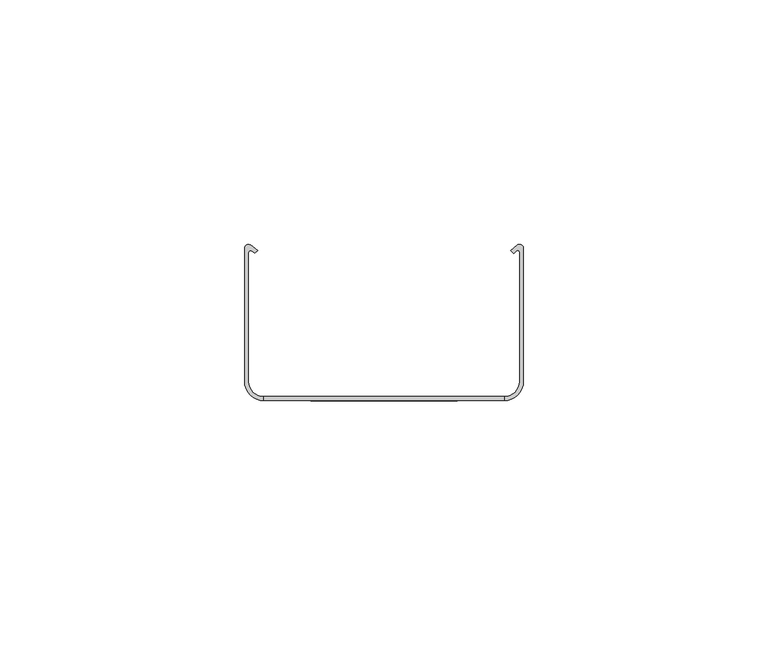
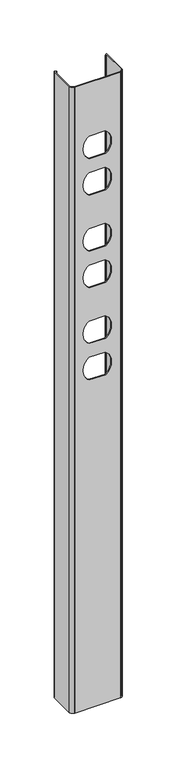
"""IFC4 building model written with IfcOpenShell, lengths in millimetres: proxy geometry, Accessory-Wiremold-Add-on_Power_Cover : 25DTP-B."""

from ifc_helpers import new_model, si_unit, point, frame, frame_2d, origin, origin_with_axes, place, context, project, spatial, polyline, circle_curve, trimmed, segment, composite_curve, outline, extrude, source, transform, mapped, element, save


def electrical_fixtures_08506310(model_context):
    return source(origin(), model_context, "Body", "SweptSolid", [
        extrude(outline(polyline([(711.0, 24.575), (711.0, -24.575), (0.0, -24.575), (0.0, 24.575), (711.0, 24.575)]), holes=[composite_curve([segment(polyline([(439.7477261, -8.6008568), (439.7477261, 8.6011223)]), True, "CONTINUOUS"), segment(trimmed(circle_curve(frame_2d((428.0099083, 0.9958893)), 13.9862766), [point((439.7477261, 8.6011223))], [point((428.0099083, 14.982166))], True, "CARTESIAN"), True, "CONTINUOUS"), segment(polyline([(428.0099083, 14.982166), (425.9224052, 14.982166)]), True, "CONTINUOUS"), segment(trimmed(circle_curve(frame_2d((425.9224052, 0.982166)), 14.0), [point((425.9224052, 14.982166))], [point((414.2625, 8.7311408))], True, "CARTESIAN"), True, "CONTINUOUS"), segment(polyline([(414.2625, 8.7311408), (414.2625, -8.7313592)]), True, "CONTINUOUS"), segment(trimmed(circle_curve(frame_2d((425.9603539, -0.9909304)), 14.0269036), [point((414.2625, -8.7313592))], [point((425.9603539, -15.017834))], True, "CARTESIAN"), True, "CONTINUOUS"), segment(polyline([(425.9603539, -15.017834), (427.9677071, -15.017834)]), True, "CONTINUOUS"), segment(trimmed(circle_curve(frame_2d((427.9677071, -0.9967117)), 14.0211223), [point((427.9677071, -15.017834))], [point((439.7477261, -8.6008568))], True, "CARTESIAN"), True, "CONTINUOUS")], self_intersect=False), composite_curve([segment(polyline([(398.3477261, -8.6597405), (398.3477261, 8.6597843)]), True, "CONTINUOUS"), segment(trimmed(circle_curve(frame_2d((386.6523431, 1.0036923)), 13.9784736), [point((398.3477261, 8.6597843))], [point((386.6523431, 14.982166))], True, "CARTESIAN"), True, "CONTINUOUS"), segment(polyline([(386.6523431, 14.982166), (384.5578829, 14.982166)]), True, "CONTINUOUS"), segment(trimmed(circle_curve(frame_2d((384.5578829, 0.9733088)), 14.0088572), [point((384.5578829, 14.982166))], [point((372.8625, 8.6847352))], True, "CARTESIAN"), True, "CONTINUOUS"), segment(polyline([(372.8625, 8.6847352), (372.8625, -8.6847352)]), True, "CONTINUOUS"), segment(trimmed(circle_curve(frame_2d((384.595872, -0.9820385)), 14.0357955), [point((372.8625, -8.6847352))], [point((384.595872, -15.017834))], True, "CARTESIAN"), True, "CONTINUOUS"), segment(polyline([(384.595872, -15.017834), (386.6101618, -15.017834)]), True, "CONTINUOUS"), segment(trimmed(circle_curve(frame_2d((386.6101618, -1.0045322)), 14.0133019), [point((386.6101618, -15.017834))], [point((398.3477261, -8.6597405))], True, "CARTESIAN"), True, "CONTINUOUS")], self_intersect=False), composite_curve([segment(trimmed(circle_curve(frame_2d((489.5810981, -0.9820385)), 14.0357955), [point((477.8477261, -8.6847352))], [point((489.5810981, -15.017834))], True, "CARTESIAN"), True, "CONTINUOUS"), segment(polyline([(489.5810981, -15.017834), (491.5953879, -15.017834)]), True, "CONTINUOUS"), segment(trimmed(circle_curve(frame_2d((491.5953879, -1.0045322)), 14.0133019), [point((491.5953879, -15.017834))], [point((503.3329521, -8.6597405))], True, "CARTESIAN"), True, "CONTINUOUS"), segment(polyline([(503.3329521, -8.6597405), (503.3329521, 8.6597843)]), True, "CONTINUOUS"), segment(trimmed(circle_curve(frame_2d((491.6375692, 1.0036923)), 13.9784736), [point((503.3329521, 8.6597843))], [point((491.6375692, 14.982166))], True, "CARTESIAN"), True, "CONTINUOUS"), segment(polyline([(491.6375692, 14.982166), (489.543109, 14.982166)]), True, "CONTINUOUS"), segment(trimmed(circle_curve(frame_2d((489.543109, 0.9733088)), 14.0088572), [point((489.543109, 14.982166))], [point((477.8477261, 8.6847352))], True, "CARTESIAN"), True, "CONTINUOUS"), segment(polyline([(477.8477261, 8.6847352), (477.8477261, -8.6847352)]), True, "CONTINUOUS")], self_intersect=False), composite_curve([segment(trimmed(circle_curve(frame_2d((532.9529331, -0.9967117)), 14.0211223), [point((532.9529331, -15.017834))], [point((544.7329521, -8.6008568))], True, "CARTESIAN"), True, "CONTINUOUS"), segment(polyline([(544.7329521, -8.6008568), (544.7329521, 8.6011223)]), True, "CONTINUOUS"), segment(trimmed(circle_curve(frame_2d((532.9951343, 0.9958893)), 13.9862766), [point((544.7329521, 8.6011223))], [point((532.9951343, 14.982166))], True, "CARTESIAN"), True, "CONTINUOUS"), segment(polyline([(532.9951343, 14.982166), (530.9076313, 14.982166)]), True, "CONTINUOUS"), segment(trimmed(circle_curve(frame_2d((530.9076313, 0.982166)), 14.0), [point((530.9076313, 14.982166))], [point((519.2477261, 8.7311408))], True, "CARTESIAN"), True, "CONTINUOUS"), segment(polyline([(519.2477261, 8.7311408), (519.2477261, -8.7313592)]), True, "CONTINUOUS"), segment(trimmed(circle_curve(frame_2d((530.94558, -0.9909304)), 14.0269036), [point((519.2477261, -8.7313592))], [point((530.94558, -15.017834))], True, "CARTESIAN"), True, "CONTINUOUS"), segment(polyline([(530.94558, -15.017834), (532.9529331, -15.017834)]), True, "CONTINUOUS")], self_intersect=False), composite_curve([segment(trimmed(circle_curve(frame_2d((594.5663241, -0.9820385)), 14.0357955), [point((582.8329521, -8.6847352))], [point((594.5663241, -15.017834))], True, "CARTESIAN"), True, "CONTINUOUS"), segment(polyline([(594.5663241, -15.017834), (596.580614, -15.017834)]), True, "CONTINUOUS"), segment(trimmed(circle_curve(frame_2d((596.580614, -1.0045322)), 14.0133019), [point((596.580614, -15.017834))], [point((608.3181782, -8.6597405))], True, "CARTESIAN"), True, "CONTINUOUS"), segment(polyline([(608.3181782, -8.6597405), (608.3181782, 8.6597843)]), True, "CONTINUOUS"), segment(trimmed(circle_curve(frame_2d((596.6227953, 1.0036923)), 13.9784736), [point((608.3181782, 8.6597843))], [point((596.6227953, 14.982166))], True, "CARTESIAN"), True, "CONTINUOUS"), segment(polyline([(596.6227953, 14.982166), (594.528335, 14.982166)]), True, "CONTINUOUS"), segment(trimmed(circle_curve(frame_2d((594.528335, 0.9733088)), 14.0088572), [point((594.528335, 14.982166))], [point((582.8329521, 8.6847352))], True, "CARTESIAN"), True, "CONTINUOUS"), segment(polyline([(582.8329521, 8.6847352), (582.8329521, -8.6847352)]), True, "CONTINUOUS")], self_intersect=False), composite_curve([segment(trimmed(circle_curve(frame_2d((637.9381592, -0.9967117)), 14.0211223), [point((637.9381592, -15.017834))], [point((649.7181782, -8.6008568))], True, "CARTESIAN"), True, "CONTINUOUS"), segment(polyline([(649.7181782, -8.6008568), (649.7181782, 8.6011223)]), True, "CONTINUOUS"), segment(trimmed(circle_curve(frame_2d((637.9803604, 0.9958893)), 13.9862766), [point((649.7181782, 8.6011223))], [point((637.9803604, 14.982166))], True, "CARTESIAN"), True, "CONTINUOUS"), segment(polyline([(637.9803604, 14.982166), (635.8928573, 14.982166)]), True, "CONTINUOUS"), segment(trimmed(circle_curve(frame_2d((635.8928573, 0.982166)), 14.0), [point((635.8928573, 14.982166))], [point((624.2329521, 8.7311408))], True, "CARTESIAN"), True, "CONTINUOUS"), segment(polyline([(624.2329521, 8.7311408), (624.2329521, -8.7313592)]), True, "CONTINUOUS"), segment(trimmed(circle_curve(frame_2d((635.9308061, -0.9909304)), 14.0269036), [point((624.2329521, -8.7313592))], [point((635.9308061, -15.017834))], True, "CARTESIAN"), True, "CONTINUOUS"), segment(polyline([(635.9308061, -15.017834), (637.9381592, -15.017834)]), True, "CONTINUOUS")], self_intersect=False)]), frame((0.0, 0.0, 0.0), z_axis=(0.0, 1.0, 0.0), x_axis=(0.0, 0.0, 1.0)), (0.0, 0.0, 1.0), 0.8),
        extrude(outline(composite_curve([segment(trimmed(circle_curve(frame_2d((-27.7048045, 31.1398141)), 0.7951955), [point((-28.5, 31.1398141))], [point((-27.2394932, 31.7846563))], False, "CARTESIAN"), True, "CONTINUOUS"), segment(polyline([(-27.2394932, 31.7846563), (-25.7944589, 30.7419348), (-26.3830792, 30.1533145), (-27.0991279, 30.6700076)]), True, "CONTINUOUS"), segment(trimmed(circle_curve(frame_2d((-27.3209375, 30.3626173)), 0.3790625), [point((-27.0991279, 30.6700076))], [point((-27.7, 30.3626173))], True, "CARTESIAN"), True, "CONTINUOUS"), segment(polyline([(-27.7, 30.3626173), (-27.7, 3.925)]), True, "CONTINUOUS"), segment(trimmed(circle_curve(frame_2d((-24.575, 3.925)), 3.125), [point((-27.7, 3.925))], [point((-24.575, 0.8))], True, "CARTESIAN"), True, "CONTINUOUS"), segment(polyline([(-24.575, 0.8), (-24.575, 0.0)]), True, "CONTINUOUS"), segment(trimmed(circle_curve(frame_2d((-24.575, 3.925)), 3.925), [point((-24.575, 0.0))], [point((-28.5, 3.925))], False, "CARTESIAN"), True, "CONTINUOUS"), segment(polyline([(-28.5, 3.925), (-28.5, 31.1398141)]), True, "CONTINUOUS")], self_intersect=False)), origin_with_axes(), (0.0, 0.0, 1.0), 711.0),
        extrude(outline(composite_curve([segment(trimmed(circle_curve(frame_2d((24.575, 3.925)), 3.925), [point((28.5, 3.925))], [point((24.575, 0.0))], False, "CARTESIAN"), True, "CONTINUOUS"), segment(polyline([(24.575, 0.0), (24.575, 0.8)]), True, "CONTINUOUS"), segment(trimmed(circle_curve(frame_2d((24.575, 3.925)), 3.125), [point((24.575, 0.8))], [point((27.7, 3.925))], True, "CARTESIAN"), True, "CONTINUOUS"), segment(polyline([(27.7, 3.925), (27.7, 30.4180475)]), True, "CONTINUOUS"), segment(trimmed(circle_curve(frame_2d((27.3467453, 30.4180475)), 0.3532547), [point((27.7, 30.4180475))], [point((27.0969566, 30.6678363))], True, "CARTESIAN"), True, "CONTINUOUS"), segment(polyline([(27.0969566, 30.6678363), (26.557757, 30.0536367), (25.8694589, 30.6578866), (27.2394932, 31.7846563)]), True, "CONTINUOUS"), segment(trimmed(circle_curve(frame_2d((27.7261879, 31.1830638)), 0.7738121), [point((27.2394932, 31.7846563))], [point((28.5, 31.1830638))], False, "CARTESIAN"), True, "CONTINUOUS"), segment(polyline([(28.5, 31.1830638), (28.5, 3.925)]), True, "CONTINUOUS")], self_intersect=False)), origin_with_axes(), (0.0, 0.0, 1.0), 711.0),
    ])


if __name__ == "__main__":
    model = new_model("IFC4")
    model_context = context("Model", 3, world=origin())
    ifc_project = project(units=[si_unit("LENGTHUNIT", "METRE", prefix="MILLI")], contexts=[model_context])
    site = spatial("IfcSite", under=ifc_project)
    building = spatial("IfcBuilding", under=site)
    placement = place(None, origin())
    electrical_fixtures_shape = electrical_fixtures_08506310(model_context)
    element("IfcBuildingElementProxy", 1, Name="Accessory-Wiremold-Add-on_Power_Cover : 25DTP-B", ObjectType="Accessory-Wiremold-Add-on_Power_Cover : 25DTP-B", at=placement, inside=building, context=model_context, shape_type="MappedRepresentation", body=[
        mapped(electrical_fixtures_shape, transform((0.0, 0.0, 0.0), x_axis=(1.0, 0.0, 0.0), y_axis=(0.0, 1.0, 0.0), z_axis=(0.0, 0.0, 1.0))),
    ])
    save(model, "model.ifc")
